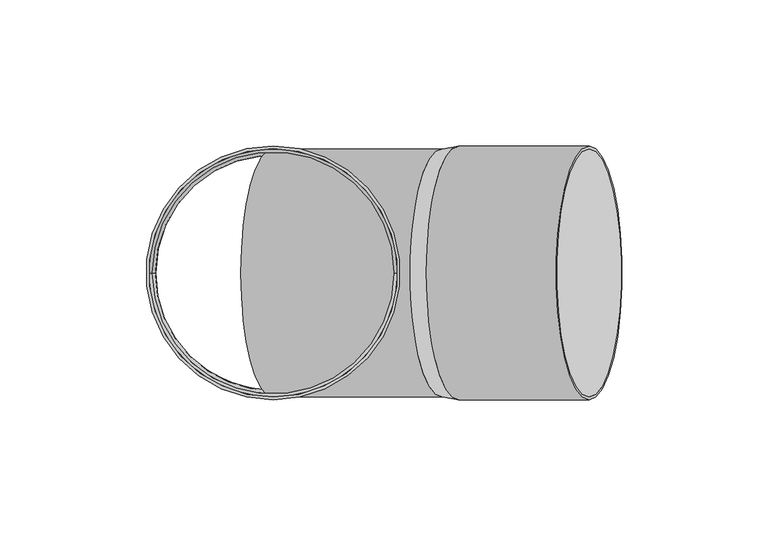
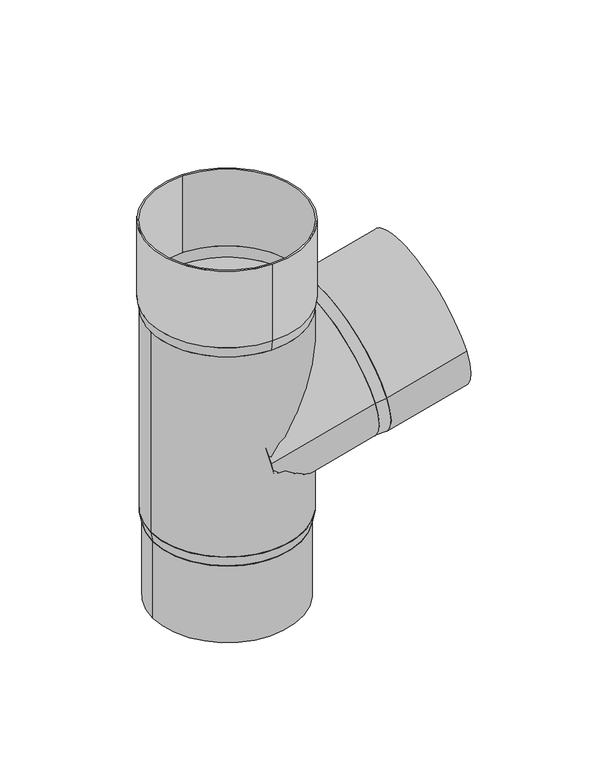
"""IFC4 building model written with IfcOpenShell, lengths in millimetres: proxy geometry, GROVIK_Downpipe_Branch : N85_75°."""

from ifc_helpers import new_model, si_unit, point, frame, origin, origin_2d, place, context, project, spatial, polyline, circle_curve, trimmed, segment, composite_curve, outline, extrude, source, transform, mapped, element, save
from ifc_brep_helpers import plane_surface, revolved_surface, advanced_brep


def generic_models_a4fc4de1(model_context):
    return source(origin(), model_context, "Body", "SolidModel", [
        extrude(outline(composite_curve([segment(trimmed(circle_curve(origin_2d(), 43.5), [point((0.0, 43.5))], [point((0.0, -43.5))], False, "CARTESIAN"), True, "CONTINUOUS"), segment(trimmed(circle_curve(origin_2d(), 43.5), [point((0.0, -43.5))], [point((0.0, 43.5))], False, "CARTESIAN"), True, "CONTINUOUS")], self_intersect=False), holes=[composite_curve([segment(trimmed(circle_curve(origin_2d(), 42.5), [point((0.0, 42.5))], [point((0.0, -42.5))], True, "CARTESIAN"), True, "CONTINUOUS"), segment(trimmed(circle_curve(origin_2d(), 42.5), [point((0.0, -42.5))], [point((0.0, 42.5))], True, "CARTESIAN"), True, "CONTINUOUS")], self_intersect=False)]), frame((63.7511045, 0.0, 9.082057), z_axis=(0.965925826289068, 0.0, 0.25881904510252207), x_axis=(0.25881904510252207, 0.0, -0.965925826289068)), (0.0, 0.0, 1.0), 46.0),
        advanced_brep(
        [(57.9555496, -42.5, 7.5291427), (57.9555496, 42.5, 7.5291427), (57.9555496, 41.4, 7.5291427), (57.9555496, -41.4, 7.5291427), (63.7511045, -43.5, 9.082057), (63.7511045, 43.5, 9.082057), (63.7511045, -42.5, 9.082057), (63.7511045, 42.5, 9.082057)],
        [
            (0, 1, circle_curve(frame((57.9555496, 0.0, 7.5291427), z_axis=(-0.965925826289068, 0.0, -0.25881904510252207), x_axis=(0.0, -1.0, 0.0)), 42.5)),
            (1, 0, circle_curve(frame((57.9555496, 0.0, 7.5291427), z_axis=(-0.965925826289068, 0.0, -0.25881904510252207), x_axis=(0.0, 1.0, 0.0)), 42.5)),
            (2, 3, circle_curve(frame((57.9555496, 0.0, 7.5291427), z_axis=(0.965925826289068, 0.0, 0.25881904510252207), x_axis=(0.0, -1.0, 0.0)), 41.4)),
            (3, 2, circle_curve(frame((57.9555496, 0.0, 7.5291427), z_axis=(0.965925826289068, 0.0, 0.25881904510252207), x_axis=(0.0, 1.0, 0.0)), 41.4)),
            (4, 5, circle_curve(frame((63.7511045, 0.0, 9.082057), z_axis=(0.965925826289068, 0.0, 0.25881904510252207), x_axis=(0.0, 1.0, 0.0)), 43.5)),
            (5, 4, circle_curve(frame((63.7511045, 0.0, 9.082057), z_axis=(0.965925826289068, 0.0, 0.25881904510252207), x_axis=(0.0, -1.0, 0.0)), 43.5)),
            (6, 7, circle_curve(frame((63.7511045, 0.0, 9.082057), z_axis=(-0.965925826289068, 0.0, -0.25881904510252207), x_axis=(0.0, -1.0, 0.0)), 42.5)),
            (7, 6, circle_curve(frame((63.7511045, 0.0, 9.082057), z_axis=(-0.965925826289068, 0.0, -0.25881904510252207), x_axis=(0.0, 1.0, 0.0)), 42.5)),
            (0, 4),
            (5, 1),
            (6, 3),
            (2, 7),
        ],
        [
            plane_surface(frame((57.9555496, 0.0, 7.5291427), z_axis=(-0.965925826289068, 0.0, -0.25881904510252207), x_axis=(-0.25881904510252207, 0.0, 0.965925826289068))),
            plane_surface(frame((63.7511045, 0.0, 9.082057), z_axis=(0.965925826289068, 0.0, 0.25881904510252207), x_axis=(-0.25881904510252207, 0.0, 0.965925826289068))),
            revolved_surface(polyline([(57.955549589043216, -42.500000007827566, 7.529142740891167), (63.7511045, -43.5, 9.082056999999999)]), (-188.3555361, 0.0, -58.4697138), (0.965925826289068, 0.0, 0.25881904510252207)),
            revolved_surface(polyline([(57.955549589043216, 42.500000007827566, 7.529142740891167), (63.7511045, 43.5, 9.082056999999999)]), (-188.3555361, 0.0, -58.4697138), (0.965925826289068, 0.0, 0.25881904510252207)),
            revolved_surface(polyline([(63.7511045, -42.5, 9.082056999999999), (57.95554958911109, -41.40000000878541, 7.529142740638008)]), (-160.1680643, 0.0, -50.9169035), (0.965925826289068, 0.0, 0.25881904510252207)),
        ],
        [
            (0, [[1, 2], [3, 4]]),
            (1, [[5, 6], [7, 8]]),
            (2, [[-1, 9, -6, 10]]),
            (3, [[-2, -10, -5, -9]]),
            (4, [[11, -3, 12, -7]]),
            (4, [[-11, -8, -12, -4]]),
        ],
    ),
        extrude(outline(composite_curve([segment(trimmed(circle_curve(origin_2d(), 42.5), [point((0.0, 42.5))], [point((0.0, -42.5))], False, "CARTESIAN"), True, "CONTINUOUS"), segment(trimmed(circle_curve(origin_2d(), 42.5), [point((0.0, -42.5))], [point((0.0, 42.5))], False, "CARTESIAN"), True, "CONTINUOUS")], self_intersect=False), holes=[composite_curve([segment(trimmed(circle_curve(origin_2d(), 41.4), [point((0.0, 41.4))], [point((0.0, -41.4))], True, "CARTESIAN"), True, "CONTINUOUS"), segment(trimmed(circle_curve(origin_2d(), 41.4), [point((0.0, -41.4))], [point((0.0, 41.4))], True, "CARTESIAN"), True, "CONTINUOUS")], self_intersect=False)]), frame((0.0, 0.0, -8.0), z_axis=(0.965925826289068, 0.0, 0.25881904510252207), x_axis=(0.25881904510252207, 0.0, -0.965925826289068)), (0.0, 0.0, 1.0), 60.0),
        extrude(outline(composite_curve([segment(trimmed(circle_curve(origin_2d(), 43.5), [point((0.0, 43.5))], [point((0.0, -43.5))], False, "CARTESIAN"), True, "CONTINUOUS"), segment(trimmed(circle_curve(origin_2d(), 43.5), [point((0.0, -43.5))], [point((0.0, 43.5))], False, "CARTESIAN"), True, "CONTINUOUS")], self_intersect=False), holes=[composite_curve([segment(trimmed(circle_curve(origin_2d(), 42.5), [point((0.0, 42.5))], [point((0.0, -42.5))], True, "CARTESIAN"), True, "CONTINUOUS"), segment(trimmed(circle_curve(origin_2d(), 42.5), [point((0.0, -42.5))], [point((0.0, 42.5))], True, "CARTESIAN"), True, "CONTINUOUS")], self_intersect=False)]), frame((0.0, 0.0, 65.0), z_axis=(0.0, 0.0, 1.0), x_axis=(1.0, 0.0, 0.0)), (0.0, 0.0, 1.0), 45.0),
        extrude(outline(composite_curve([segment(trimmed(circle_curve(origin_2d(), 41.25), [point((41.25, 0.0))], [point((-41.25, 0.0))], False, "CARTESIAN"), True, "CONTINUOUS"), segment(trimmed(circle_curve(origin_2d(), 41.25), [point((-41.25, 0.0))], [point((41.25, 0.0))], False, "CARTESIAN"), True, "CONTINUOUS")], self_intersect=False), holes=[composite_curve([segment(trimmed(circle_curve(origin_2d(), 40.25), [point((40.25, 0.0))], [point((-40.25, 0.0))], True, "CARTESIAN"), True, "CONTINUOUS"), segment(trimmed(circle_curve(origin_2d(), 40.25), [point((-40.25, 0.0))], [point((40.25, 0.0))], True, "CARTESIAN"), True, "CONTINUOUS")], self_intersect=False)]), frame((0.0, 0.0, -110.0), z_axis=(0.0, 0.0, 1.0), x_axis=(1.0, 0.0, 0.0)), (0.0, 0.0, 1.0), 45.0),
        advanced_brep(
        [(42.5, 0.0, -59.0), (-42.5, 0.0, -59.0), (-41.5, 0.0, -59.0), (41.5, 0.0, -59.0), (41.25, 0.0, -65.0), (-41.25, 0.0, -65.0), (40.25, 0.0, -65.0), (-40.25, 0.0, -65.0)],
        [
            (0, 1, circle_curve(frame((0.0, 0.0, -59.0), z_axis=(0.0, 0.0, 1.0), x_axis=(1.0, 0.0, 0.0)), 42.5)),
            (1, 0, circle_curve(frame((0.0, 0.0, -59.0), z_axis=(0.0, 0.0, 1.0), x_axis=(-1.0, 0.0, 0.0)), 42.5)),
            (2, 3, circle_curve(frame((0.0, 0.0, -59.0), z_axis=(0.0, 0.0, -1.0), x_axis=(1.0, 0.0, 0.0)), 41.5)),
            (3, 2, circle_curve(frame((0.0, 0.0, -59.0), z_axis=(0.0, 0.0, -1.0), x_axis=(-1.0, 0.0, 0.0)), 41.5)),
            (4, 5, circle_curve(frame((0.0, 0.0, -65.0), z_axis=(0.0, 0.0, -1.0), x_axis=(-1.0, 0.0, 0.0)), 41.25)),
            (5, 4, circle_curve(frame((0.0, 0.0, -65.0), z_axis=(0.0, 0.0, -1.0), x_axis=(1.0, 0.0, 0.0)), 41.25)),
            (6, 7, circle_curve(frame((0.0, 0.0, -65.0), z_axis=(0.0, 0.0, 1.0), x_axis=(1.0, 0.0, 0.0)), 40.25)),
            (7, 6, circle_curve(frame((0.0, 0.0, -65.0), z_axis=(0.0, 0.0, 1.0), x_axis=(-1.0, 0.0, 0.0)), 40.25)),
            (0, 4),
            (5, 1),
            (6, 3),
            (2, 7),
        ],
        [
            plane_surface(frame((0.0, 0.0, -59.0), z_axis=(0.0, 0.0, 1.0), x_axis=(0.0, 1.0, 0.0))),
            plane_surface(frame((0.0, 0.0, -65.0), z_axis=(0.0, 0.0, -1.0), x_axis=(0.0, 1.0, 0.0))),
            revolved_surface(polyline([(-41.25, 0.0, -65.0), (-42.5, 0.0, -59.0)]), (0.0, 0.0, -263.0), (0.0, 0.0, 1.0)),
            revolved_surface(polyline([(41.25, 0.0, -65.0), (42.5, 0.0, -59.0)]), (0.0, 0.0, -263.0), (0.0, 0.0, 1.0)),
            revolved_surface(polyline([(41.5, 0.0, -59.0), (40.25, 0.0, -65.0)]), (0.0, 0.0, -258.2), (0.0, 0.0, 1.0)),
        ],
        [
            (0, [[1, 2], [3, 4]]),
            (1, [[5, 6], [7, 8]]),
            (2, [[-1, 9, -6, 10]]),
            (3, [[-2, -10, -5, -9]]),
            (4, [[11, -3, 12, -7]]),
            (4, [[-11, -8, -12, -4]]),
        ],
    ),
        advanced_brep(
        [(0.0, 43.5, 65.0), (0.0, -43.5, 65.0), (-42.5, 0.0, 65.0), (42.5, 0.0, 65.0), (0.0, 42.5, 59.0), (0.0, -42.5, 59.0), (41.5, 0.0, 59.0), (-41.5, 0.0, 59.0)],
        [
            (0, 1, circle_curve(frame((0.0, 0.0, 65.0), z_axis=(0.0, 0.0, 1.0), x_axis=(0.0, 1.0, 0.0)), 43.5)),
            (1, 0, circle_curve(frame((0.0, 0.0, 65.0), z_axis=(0.0, 0.0, 1.0), x_axis=(0.0, -1.0, 0.0)), 43.5)),
            (2, 3, circle_curve(frame((0.0, 0.0, 65.0), z_axis=(0.0, 0.0, -1.0), x_axis=(-1.0, 0.0, 0.0)), 42.5)),
            (3, 2, circle_curve(frame((0.0, 0.0, 65.0), z_axis=(0.0, 0.0, -1.0), x_axis=(1.0, 0.0, 0.0)), 42.5)),
            (4, 5, circle_curve(frame((0.0, 0.0, 59.0), z_axis=(0.0, 0.0, -1.0), x_axis=(0.0, -1.0, 0.0)), 42.5)),
            (5, 4, circle_curve(frame((0.0, 0.0, 59.0), z_axis=(0.0, 0.0, -1.0), x_axis=(0.0, 1.0, 0.0)), 42.5)),
            (6, 7, circle_curve(frame((0.0, 0.0, 59.0), z_axis=(0.0, 0.0, 1.0), x_axis=(-1.0, 0.0, 0.0)), 41.5)),
            (7, 6, circle_curve(frame((0.0, 0.0, 59.0), z_axis=(0.0, 0.0, 1.0), x_axis=(1.0, 0.0, 0.0)), 41.5)),
            (0, 4),
            (5, 1),
            (2, 7),
            (6, 3),
        ],
        [
            plane_surface(frame((0.0, 0.0, 65.0), z_axis=(0.0, 0.0, 1.0), x_axis=(-1.0, 0.0, 0.0))),
            plane_surface(frame((0.0, 0.0, 59.0), z_axis=(0.0, 0.0, -1.0), x_axis=(-1.0, 0.0, 0.0))),
            revolved_surface(polyline([(0.0, -42.5, 59.0), (0.0, -43.5, 65.0)]), (0.0, 0.0, -196.0), (0.0, 0.0, 1.0)),
            revolved_surface(polyline([(0.0, 42.5, 59.0), (0.0, 43.5, 65.0)]), (0.0, 0.0, -196.0), (0.0, 0.0, 1.0)),
            revolved_surface(polyline([(-42.5, 0.0, 65.0), (-41.5, 0.0, 59.0)]), (0.0, 0.0, -190.0), (0.0, 0.0, 1.0)),
        ],
        [
            (0, [[1, 2], [3, 4]]),
            (1, [[5, 6], [7, 8]]),
            (2, [[-1, 9, -6, 10]]),
            (3, [[-2, -10, -5, -9]]),
            (4, [[11, -7, 12, -3]]),
            (4, [[-11, -4, -12, -8]]),
        ],
    ),
        extrude(outline(composite_curve([segment(trimmed(circle_curve(origin_2d(), 42.5), [point((-42.5, 0.0))], [point((42.5, 0.0))], False, "CARTESIAN"), True, "CONTINUOUS"), segment(trimmed(circle_curve(origin_2d(), 42.5), [point((42.5, 0.0))], [point((-42.5, 0.0))], False, "CARTESIAN"), True, "CONTINUOUS")], self_intersect=False), holes=[composite_curve([segment(trimmed(circle_curve(origin_2d(), 41.5), [point((-41.5, 0.0))], [point((41.5, 0.0))], True, "CARTESIAN"), True, "CONTINUOUS"), segment(trimmed(circle_curve(origin_2d(), 41.5), [point((41.5, 0.0))], [point((-41.5, 0.0))], True, "CARTESIAN"), True, "CONTINUOUS")], self_intersect=False)]), frame((0.0, 0.0, -59.0), z_axis=(0.0, 0.0, 1.0), x_axis=(1.0, 0.0, 0.0)), (0.0, 0.0, 1.0), 118.0),
    ])


if __name__ == "__main__":
    model = new_model("IFC4")
    model_context = context("Model", 3, world=origin())
    ifc_project = project(units=[si_unit("LENGTHUNIT", "METRE", prefix="MILLI")], contexts=[model_context])
    site = spatial("IfcSite", under=ifc_project)
    building = spatial("IfcBuilding", under=site)
    placement = place(None, origin())
    generic_models_shape = generic_models_a4fc4de1(model_context)
    element("IfcBuildingElementProxy", 1, Name="GROVIK_Downpipe_Branch : N85_75°", ObjectType="GROVIK_Downpipe_Branch : N85_75°", at=placement, inside=building, context=model_context, shape_type="MappedRepresentation", body=[
        mapped(generic_models_shape, transform((0.0, 0.0, 0.0), x_axis=(1.0, 0.0, 0.0), y_axis=(0.0, 1.0, 0.0), z_axis=(0.0, 0.0, 1.0))),
    ])
    save(model, "model.ifc")
